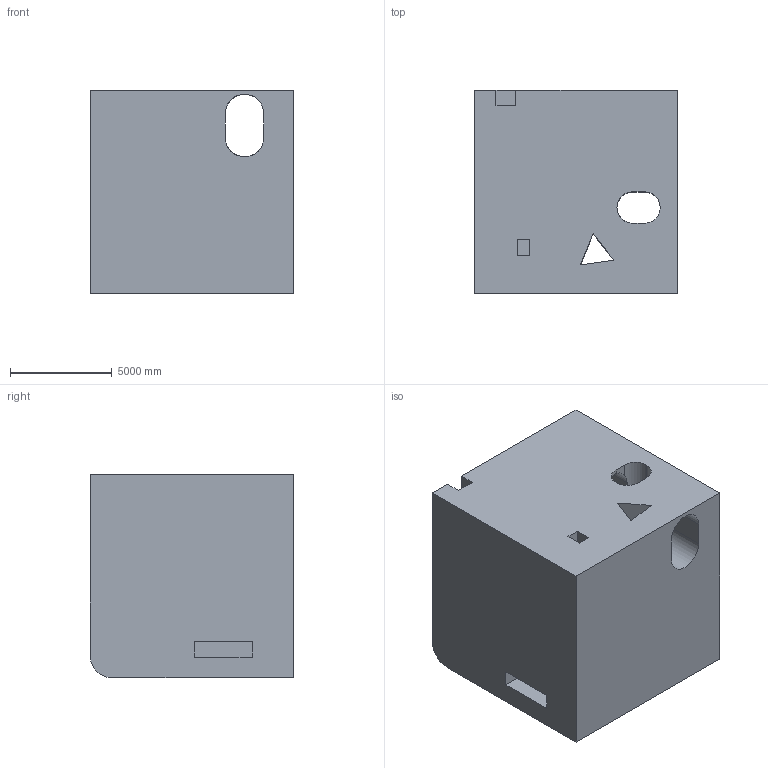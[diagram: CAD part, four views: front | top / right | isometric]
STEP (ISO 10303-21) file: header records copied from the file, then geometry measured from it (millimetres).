
FILE_DESCRIPTION (( 'STEP AP203' ), '1' );
FILE_NAME ('169.STEP', '2022-09-05T15:53:43', ( 'user' ), ( '' ), 'SwSTEP 2.0', 'SolidWorks 2021', '' );
FILE_SCHEMA (( 'CONFIG_CONTROL_DESIGN' ));
Length unit declared in the file: centimetre
Products named in the file (1): 169
Bounding box: 10000 x 10000 x 10000 mm (x, y, z)
Volume: 892904254806.3 mm3; surface area: 820386835.1 mm2
Topology: 1 solids, 1 shells, 42 faces, 132 edges, 88 vertices
Faces by surface type: plane 33, cylinder 9
Entity records: 1889 total; most frequent: CARTESIAN_POINT 625, ORIENTED_EDGE 264, DIRECTION 224, EDGE_CURVE 132, VECTOR 102, LINE 102, VERTEX_POINT 88, AXIS2_PLACEMENT_3D 61
